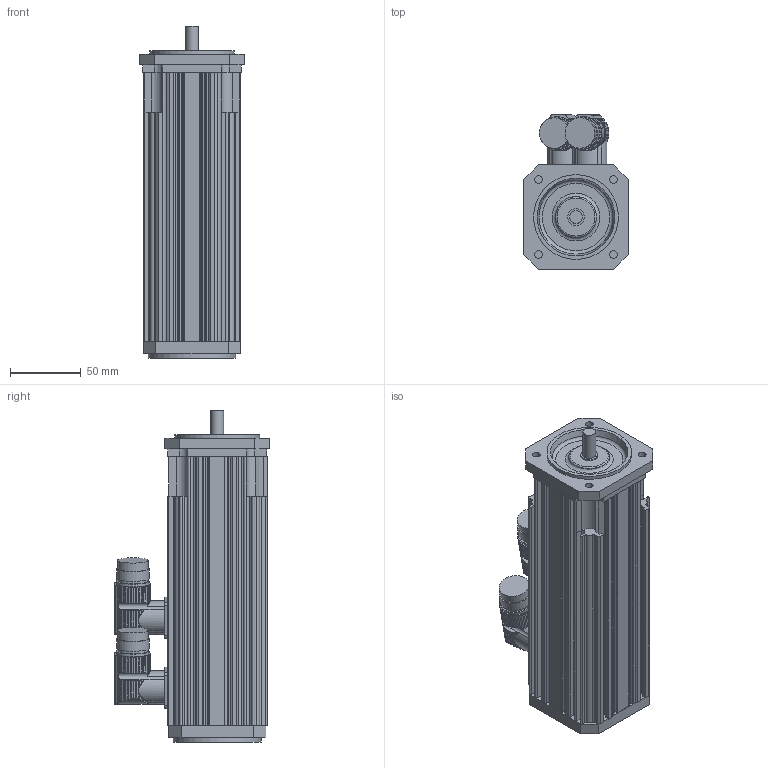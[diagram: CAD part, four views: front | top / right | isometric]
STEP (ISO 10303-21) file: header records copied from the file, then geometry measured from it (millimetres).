
FILE_DESCRIPTION(/* description */ (''),/* implementation_level */ '2;1');
FILE_NAME(/* name */ 'KSA246_Ix',/* time_stamp */ '2009-02-26T12:53:35+01:00',/* author */ (''),/* organization */ (''),/* preprocessor_version */ 'ST-DEVELOPER v8',/* originating_system */ 'UNIGRAPHICS SOLUTIONS - UNIGRAPHICS 18.0',/* authorisation */ '');
FILE_SCHEMA (('AUTOMOTIVE_DESIGN { 1 2 10303 214 0 1 1 1 }'));
Length unit declared in the file: millimetre
Products named in the file (4): Lagersch2AS_0; Winkelflanschdose_0; Lagersch2BS_0; KSA244_Ix_0
Assembly tree (4 placements, depth 2):
  KSA244_Ix_0
    Lagersch2BS_0
    Winkelflanschdose_0  x2
    Lagersch2AS_0
Bounding box: 74 x 109.69 x 235 mm (x, y, z)
Volume: 412278.6 mm3; surface area: 158418.8 mm2
Topology: 5 solids, 5 shells, 640 faces, 1787 edges, 1166 vertices
Faces by surface type: cylinder 402, plane 185, torus 16, bspline 16, sphere 16, cone 5
Full cylindrical faces by diameter (mm): 5.5 x4, 9 x1, 12 x1, 16 x2, 20 x2, 21 x2, 21.5 x2, 23 x4, 60 x2, 61 x2, 62 x1
Entity records: 16144 total; most frequent: CARTESIAN_POINT 3740, ORIENTED_EDGE 2534, DIRECTION 2486, EDGE_CURVE 1267, AXIS2_PLACEMENT_3D 938, VERTEX_POINT 844, LINE 610, VECTOR 610
